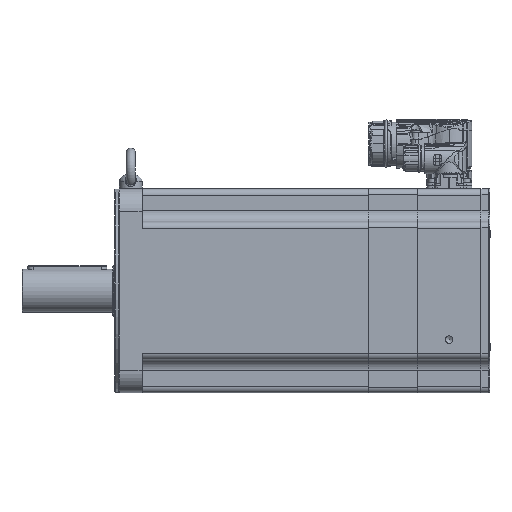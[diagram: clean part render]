
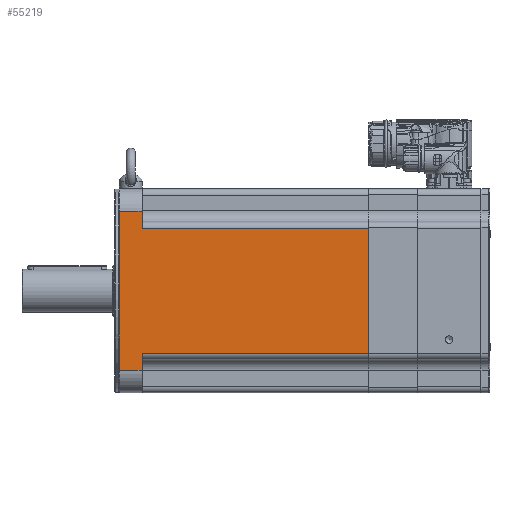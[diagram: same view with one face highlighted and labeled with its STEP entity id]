
A CAD part, left-side view. The second image highlights one B-rep face of the part: STEP entity #55219.
In plain terms, the highlighted planar face has unit normal (-1, 0, 0) as drawn and (1, 0, 0) by its records, which use the part's own axes.
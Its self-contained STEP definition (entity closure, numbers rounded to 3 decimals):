
#4977=PLANE('',#81155);
#21180=ORIENTED_EDGE('',*,*,#30378,.F.);
#21181=ORIENTED_EDGE('',*,*,#30444,.T.);
#21182=ORIENTED_EDGE('',*,*,#30412,.F.);
#21183=ORIENTED_EDGE('',*,*,#30445,.T.);
#21184=ORIENTED_EDGE('',*,*,#30446,.F.);
#21185=ORIENTED_EDGE('',*,*,#30447,.T.);
#21186=ORIENTED_EDGE('',*,*,#30432,.F.);
#21187=ORIENTED_EDGE('',*,*,#30448,.T.);
#30378=EDGE_CURVE('',#36095,#36096,#39664,.T.);
#30412=EDGE_CURVE('',#36129,#36130,#39678,.T.);
#30432=EDGE_CURVE('',#36149,#36150,#39685,.T.);
#30444=EDGE_CURVE('',#36095,#36130,#39693,.F.);
#30445=EDGE_CURVE('',#36129,#36157,#39694,.T.);
#30446=EDGE_CURVE('',#36158,#36157,#39695,.T.);
#30447=EDGE_CURVE('',#36158,#36150,#39696,.F.);
#30448=EDGE_CURVE('',#36149,#36096,#39697,.T.);
#36095=VERTEX_POINT('',#154618);
#36096=VERTEX_POINT('',#154620);
#36129=VERTEX_POINT('',#154693);
#36130=VERTEX_POINT('',#154695);
#36149=VERTEX_POINT('',#154740);
#36150=VERTEX_POINT('',#154741);
#36157=VERTEX_POINT('',#154765);
#36158=VERTEX_POINT('',#154767);
#39664=LINE('',#154619,#42754);
#39678=LINE('',#154694,#42768);
#39685=LINE('',#154739,#42775);
#39693=LINE('',#154763,#42783);
#39694=LINE('',#154764,#42784);
#39695=LINE('',#154766,#42785);
#39696=LINE('',#154768,#42786);
#39697=LINE('',#154769,#42787);
#42754=VECTOR('',#93840,1000.);
#42768=VECTOR('',#93908,1000.);
#42775=VECTOR('',#93953,1000.);
#42783=VECTOR('',#93977,1000.);
#42784=VECTOR('',#93978,1000.);
#42785=VECTOR('',#93979,1000.);
#42786=VECTOR('',#93980,1000.);
#42787=VECTOR('',#93981,1000.);
#46523=EDGE_LOOP('',(#21180,#21181,#21182,#21183,#21184,#21185,#21186,#21187));
#50738=FACE_BOUND('',#46523,.T.);
#55219=ADVANCED_FACE('',(#50738),#4977,.T.);
#81155=AXIS2_PLACEMENT_3D('',#154762,#93975,#93976);
#93840=DIRECTION('',(0.,0.,-1.));
#93908=DIRECTION('',(0.,0.,-1.));
#93953=DIRECTION('',(0.,0.,-1.));
#93975=DIRECTION('',(1.,0.,0.));
#93976=DIRECTION('',(0.,1.,0.));
#93977=DIRECTION('',(0.,1.,0.));
#93978=DIRECTION('',(0.,-1.,0.));
#93979=DIRECTION('',(0.,0.,1.));
#93980=DIRECTION('',(0.,-1.,0.));
#93981=DIRECTION('',(0.,1.,0.));
#154618=CARTESIAN_POINT('',(90.,220.8,55.2));
#154619=CARTESIAN_POINT('',(90.,220.8,-90.));
#154620=CARTESIAN_POINT('',(90.,220.8,-55.2));
#154693=CARTESIAN_POINT('',(90.,21.3,70.));
#154694=CARTESIAN_POINT('',(90.,21.3,-90.));
#154695=CARTESIAN_POINT('',(90.,21.3,55.2));
#154739=CARTESIAN_POINT('',(90.,21.3,-90.));
#154740=CARTESIAN_POINT('',(90.,21.3,-55.2));
#154741=CARTESIAN_POINT('',(90.,21.3,-70.));
#154762=CARTESIAN_POINT('',(90.,488.463,-90.));
#154763=CARTESIAN_POINT('',(90.,488.463,55.2));
#154764=CARTESIAN_POINT('',(90.,488.463,70.));
#154765=CARTESIAN_POINT('',(90.,1.3,70.));
#154766=CARTESIAN_POINT('',(90.,1.3,-90.));
#154767=CARTESIAN_POINT('',(90.,1.3,-70.));
#154768=CARTESIAN_POINT('',(90.,488.463,-70.));
#154769=CARTESIAN_POINT('',(90.,488.463,-55.2));
